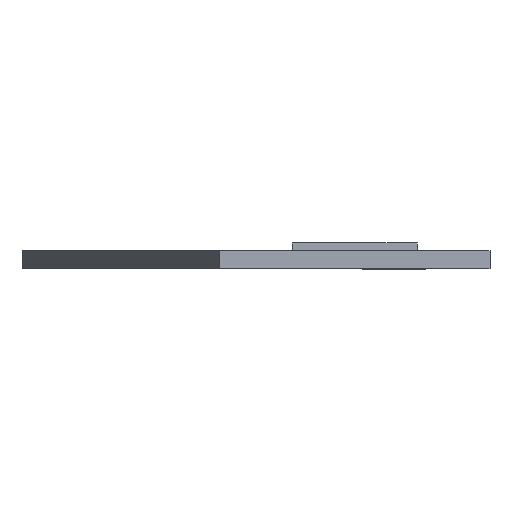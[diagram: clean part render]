
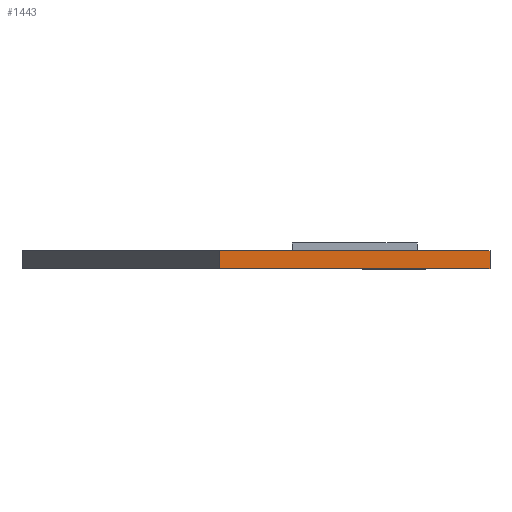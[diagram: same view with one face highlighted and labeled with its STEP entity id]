
A CAD part, front view. The second image highlights one B-rep face of the part: STEP entity #1443.
In plain terms, the highlighted planar face has unit normal (0, -1, 0).
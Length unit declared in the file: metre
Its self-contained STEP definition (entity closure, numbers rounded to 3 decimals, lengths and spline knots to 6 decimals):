
#42=LINE('',#2031,#223);
#96=LINE('',#2151,#277);
#101=LINE('',#2161,#282);
#104=LINE('',#2189,#285);
#223=VECTOR('',#1636,1.);
#277=VECTOR('',#1706,1.);
#282=VECTOR('',#1713,1.);
#285=VECTOR('',#1746,1.);
#491=ORIENTED_EDGE('',*,*,#868,.T.);
#492=ORIENTED_EDGE('',*,*,#881,.F.);
#493=ORIENTED_EDGE('',*,*,#803,.F.);
#494=ORIENTED_EDGE('',*,*,#863,.T.);
#803=EDGE_CURVE('',#1002,#998,#42,.T.);
#863=EDGE_CURVE('',#1002,#1060,#96,.T.);
#868=EDGE_CURVE('',#1060,#1064,#101,.T.);
#881=EDGE_CURVE('',#998,#1064,#104,.T.);
#998=VERTEX_POINT('',#2022);
#1002=VERTEX_POINT('',#2030);
#1060=VERTEX_POINT('',#2150);
#1064=VERTEX_POINT('',#2160);
#1167=EDGE_LOOP('',(#491,#492,#493,#494));
#1280=FACE_BOUND('',#1167,.T.);
#1366=PLANE('',#1554);
#1443=ADVANCED_FACE('',(#1280),#1366,.F.);
#1554=AXIS2_PLACEMENT_3D('',#2188,#1744,#1745);
#1636=DIRECTION('',(1.,0.,0.));
#1706=DIRECTION('',(0.,0.,-1.));
#1713=DIRECTION('',(1.,0.,0.));
#1744=DIRECTION('',(0.,1.,0.));
#1745=DIRECTION('',(0.,0.,1.));
#1746=DIRECTION('',(0.,0.,-1.));
#2022=CARTESIAN_POINT('',(0.015903,-0.123603,0.0509));
#2030=CARTESIAN_POINT('',(-0.036097,-0.123603,0.0509));
#2031=CARTESIAN_POINT('',(-0.010097,-0.123603,0.0509));
#2150=CARTESIAN_POINT('',(-0.036097,-0.123603,0.0474));
#2151=CARTESIAN_POINT('',(-0.036097,-0.123603,0.0509));
#2160=CARTESIAN_POINT('',(0.015903,-0.123603,0.0474));
#2161=CARTESIAN_POINT('',(-0.010097,-0.123603,0.0474));
#2188=CARTESIAN_POINT('',(-0.010097,-0.123603,0.0509));
#2189=CARTESIAN_POINT('',(0.015903,-0.123603,0.0509));
